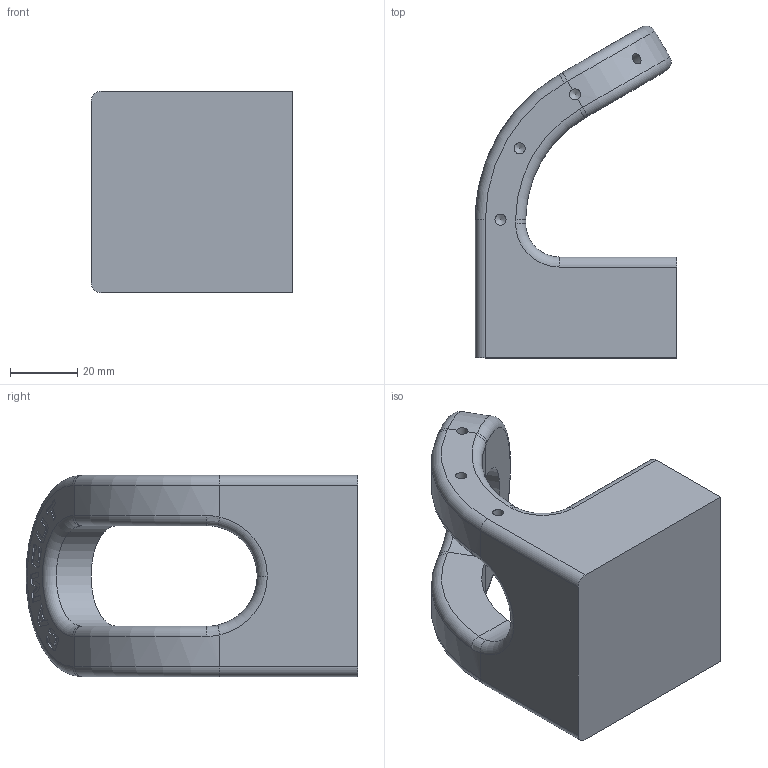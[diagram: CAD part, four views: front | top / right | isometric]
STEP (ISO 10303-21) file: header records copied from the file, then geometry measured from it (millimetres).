
FILE_DESCRIPTION((''),'2;1');
FILE_NAME('C:\Users\User\Desktop\Mastercam-harjoitukset\Mastercam_Multiaxis_2.stp','2020-03-26T11:28:34',(''),(''),'STEP Write','Mastercam 2020 ... CNC Software, Inc.','');
FILE_SCHEMA(('AUTOMOTIVE_DESIGN'));
Length unit declared in the file: millimetre
Products named in the file (1): None
Bounding box: 60 x 98.9 x 60 mm (x, y, z)
Volume: 149426.2 mm3; surface area: 25125.1 mm2
Topology: 1 solids, 1 shells, 161 faces, 432 edges, 276 vertices
Faces by surface type: plane 86, cylinder 51, torus 13, cone 9, bspline 2
Full cylindrical faces by diameter (mm): 3.3 x9
Entity records: 5432 total; most frequent: CARTESIAN_POINT 1297, DIRECTION 827, ORIENTED_EDGE 806, EDGE_CURVE 403, AXIS2_PLACEMENT_3D 276, VECTOR 275, LINE 275, VERTEX_POINT 265
